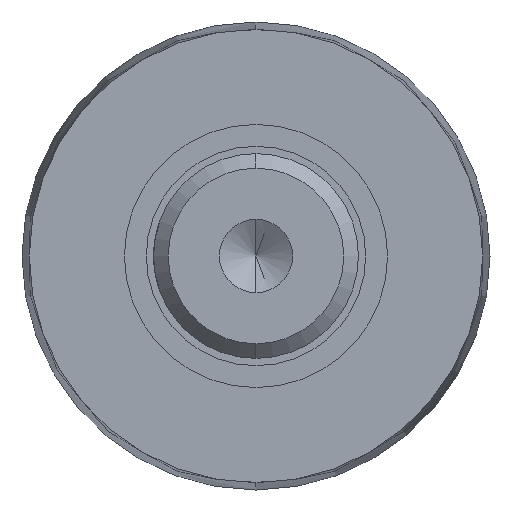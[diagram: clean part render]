
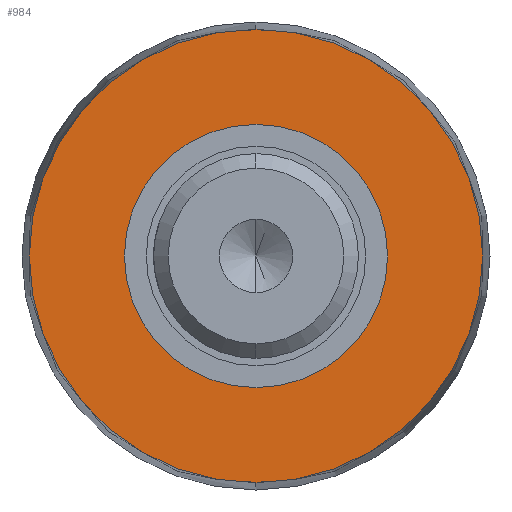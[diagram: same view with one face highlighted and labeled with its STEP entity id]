
A CAD part, left-side view. The second image highlights one B-rep face of the part: STEP entity #984.
In plain terms, the highlighted planar face has unit normal (-1, 0, 0).
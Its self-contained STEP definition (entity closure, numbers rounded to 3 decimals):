
#8 = DIRECTION ( 'NONE',  ( 0., 0., -1. ) ) ;
#25 = CIRCLE ( 'NONE', #57, 9. ) ;
#34 = VERTEX_POINT ( 'NONE', #223 ) ;
#36 = DIRECTION ( 'NONE',  ( 0., 0., 1. ) ) ;
#41 = EDGE_LOOP ( 'NONE', ( #804, #1104 ) ) ;
#54 = PLANE ( 'NONE',  #870 ) ;
#57 = AXIS2_PLACEMENT_3D ( 'NONE', #747, #245, #1156 ) ;
#75 = DIRECTION ( 'NONE',  ( 0., 0., 1. ) ) ;
#96 = VERTEX_POINT ( 'NONE', #1239 ) ;
#223 = CARTESIAN_POINT ( 'NONE',  ( 98.5, 0., -9. ) ) ;
#232 = VERTEX_POINT ( 'NONE', #783 ) ;
#245 = DIRECTION ( 'NONE',  ( 1., 0., 0. ) ) ;
#255 = EDGE_LOOP ( 'NONE', ( #1220, #1265 ) ) ;
#307 = DIRECTION ( 'NONE',  ( -1., 0., 0. ) ) ;
#341 = CARTESIAN_POINT ( 'NONE',  ( 98.5, 0., 0. ) ) ;
#365 = VERTEX_POINT ( 'NONE', #538 ) ;
#377 = CIRCLE ( 'NONE', #682, 15.5 ) ;
#400 = EDGE_CURVE ( 'NONE', #232, #34, #25, .T. ) ;
#455 = FACE_OUTER_BOUND ( 'NONE', #255, .T. ) ;
#458 = DIRECTION ( 'NONE',  ( -1., 0., 0. ) ) ;
#524 = DIRECTION ( 'NONE',  ( -1., 0., 0. ) ) ;
#533 = AXIS2_PLACEMENT_3D ( 'NONE', #829, #925, #8 ) ;
#538 = CARTESIAN_POINT ( 'NONE',  ( 98.5, 0., 15.5 ) ) ;
#682 = AXIS2_PLACEMENT_3D ( 'NONE', #341, #524, #36 ) ;
#736 = FACE_BOUND ( 'NONE', #41, .T. ) ;
#747 = CARTESIAN_POINT ( 'NONE',  ( 98.5, 0., 0. ) ) ;
#783 = CARTESIAN_POINT ( 'NONE',  ( 98.5, 0., 9. ) ) ;
#804 = ORIENTED_EDGE ( 'NONE', *, *, #855, .T. ) ;
#821 = CIRCLE ( 'NONE', #533, 9. ) ;
#829 = CARTESIAN_POINT ( 'NONE',  ( 98.5, 0., 0. ) ) ;
#855 = EDGE_CURVE ( 'NONE', #34, #232, #821, .T. ) ;
#870 = AXIS2_PLACEMENT_3D ( 'NONE', #1180, #458, #75 ) ;
#877 = CIRCLE ( 'NONE', #906, 15.5 ) ;
#903 = EDGE_CURVE ( 'NONE', #365, #96, #377, .T. ) ;
#906 = AXIS2_PLACEMENT_3D ( 'NONE', #912, #307, #907 ) ;
#907 = DIRECTION ( 'NONE',  ( 0., 0., 1. ) ) ;
#912 = CARTESIAN_POINT ( 'NONE',  ( 98.5, 0., 0. ) ) ;
#925 = DIRECTION ( 'NONE',  ( 1., 0., 0. ) ) ;
#984 = ADVANCED_FACE ( 'NONE', ( #736, #455 ), #54, .T. ) ;
#1104 = ORIENTED_EDGE ( 'NONE', *, *, #400, .T. ) ;
#1156 = DIRECTION ( 'NONE',  ( 0., 0., -1. ) ) ;
#1180 = CARTESIAN_POINT ( 'NONE',  ( 98.5, 16., 0. ) ) ;
#1220 = ORIENTED_EDGE ( 'NONE', *, *, #1314, .T. ) ;
#1239 = CARTESIAN_POINT ( 'NONE',  ( 98.5, 0., -15.5 ) ) ;
#1265 = ORIENTED_EDGE ( 'NONE', *, *, #903, .T. ) ;
#1314 = EDGE_CURVE ( 'NONE', #96, #365, #877, .T. ) ;
